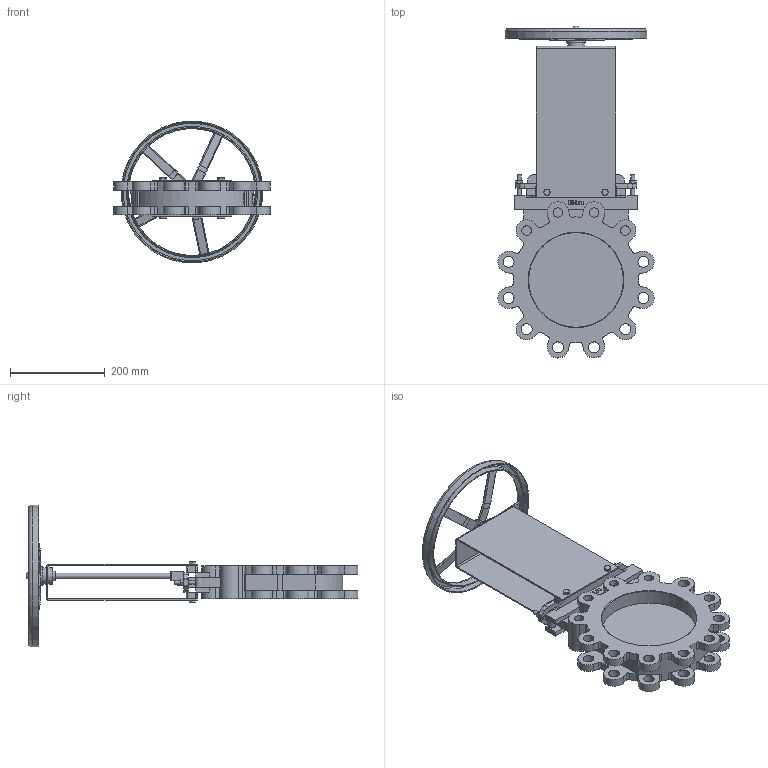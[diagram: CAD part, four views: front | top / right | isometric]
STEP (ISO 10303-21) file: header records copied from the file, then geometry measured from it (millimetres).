
FILE_DESCRIPTION(('STEP AP214'), '1');
FILE_NAME('GVKN1331N-2W-Fb-S Çàäâèæêà øèáåðíàÿ DN.ru Äó200 Ðó16', '', ('UNSPECIFIED'), ('UNSPECIFIED'), 'C3D Converter', 'C3D Toolkit', '');
FILE_SCHEMA(('AUTOMOTIVE_DESIGN { 1 0 10303 214 3 1 1}'));
Length unit declared in the file: millimetre
Products named in the file (1): GVKN1331N-2W-Fb-S
Bounding box: 329.78 x 701.49 x 298.97 mm (x, y, z)
Volume: 3656035.8 mm3; surface area: 813056.5 mm2
Topology: 1 solids, 1 shells, 767 faces, 2025 edges, 1284 vertices
Faces by surface type: plane 383, cylinder 229, cone 70, bspline 35, extrusion 29, torus 20, sphere 1
Full cylindrical faces by diameter (mm): 4 x2, 7 x4, 8 x4, 12 x1, 13 x4, 16 x3, 20 x10, 21 x1, 23 x16, 25 x1, 35 x2, 36 x1, 40 x1, 200 x2, 267.828 x1, 271.828 x1, 296 x1, 300 x1
Entity records: 33980 total; most frequent: CARTESIAN_POINT 12389, ORIENTED_EDGE 3888, DIRECTION 3710, EDGE_CURVE 1944, AXIS2_PLACEMENT_3D 1352, VERTEX_POINT 1279, VECTOR 1006, LINE 977
